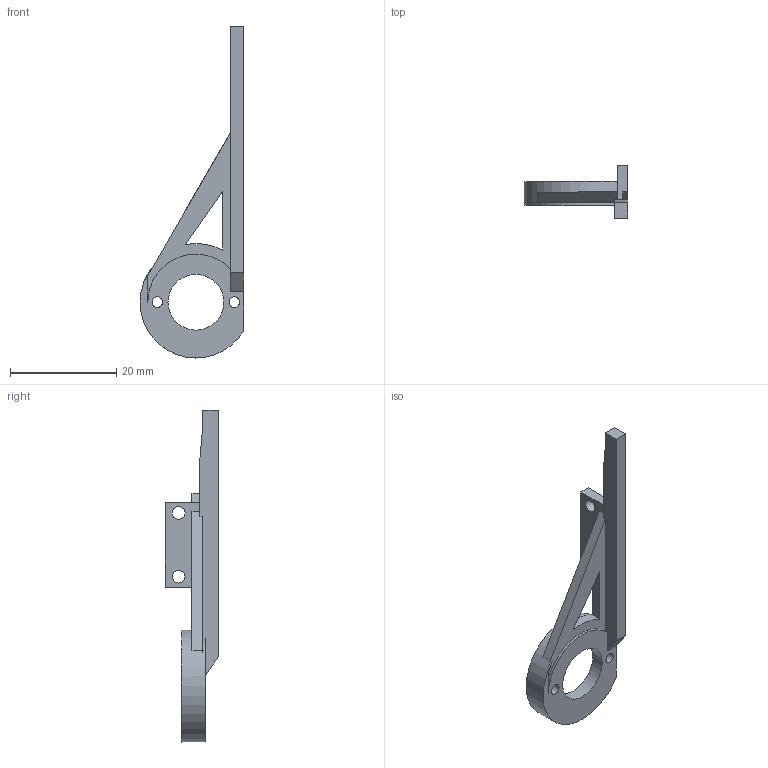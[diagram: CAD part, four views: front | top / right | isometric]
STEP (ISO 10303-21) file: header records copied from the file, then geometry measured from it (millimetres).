
FILE_DESCRIPTION(/* description */ (''),/* implementation_level */ '2;1');
FILE_NAME(/* name */ 'C:/Users/priba/Downloads/GripperJawLidarB.step',/* time_stamp */ '2022-04-04T00:02:04+02:00',/* author */ (''),/* organization */ (''),/* preprocessor_version */ 'ST-DEVELOPER v18.1',/* originating_system */ 'Autodesk Translation Framework v10.13.0.1454',/* authorisation */ '');
FILE_SCHEMA (('AUTOMOTIVE_DESIGN { 1 0 10303 214 3 1 1 }'));
Length unit declared in the file: millimetre
Products named in the file (1): GripperJawLidarB
Bounding box: 19.55 x 10 x 62.5 mm (x, y, z)
Volume: 1579.5 mm3; surface area: 2087.1 mm2
Topology: 1 solids, 1 shells, 33 faces, 92 edges, 61 vertices
Faces by surface type: plane 24, cylinder 9
Full cylindrical faces by diameter (mm): 2 x2, 2.4 x2, 10.5 x1
Entity records: 1114 total; most frequent: CARTESIAN_POINT 187, ORIENTED_EDGE 184, DIRECTION 179, EDGE_CURVE 92, LINE 73, VECTOR 73, VERTEX_POINT 61, AXIS2_PLACEMENT_3D 53
